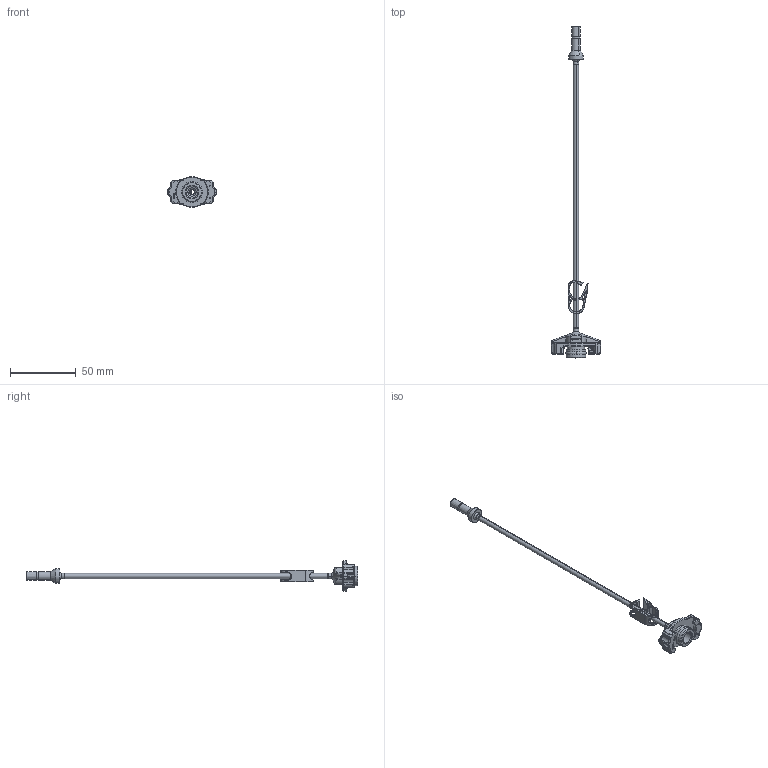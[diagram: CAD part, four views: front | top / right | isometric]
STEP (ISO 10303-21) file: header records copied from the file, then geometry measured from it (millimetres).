
FILE_DESCRIPTION (( 'STEP AP214' ), '1' );
FILE_NAME ('8001020_CUS.STEP', '2022-06-29T15:58:05', ( '' ), ( '' ), 'SwSTEP 2.0', 'SolidWorks 2020', '' );
FILE_SCHEMA (( 'AUTOMOTIVE_DESIGN' ));
Length unit declared in the file: millimetre
Products named in the file (1): 8001020_CUS
Bounding box: 37.4 x 252.2 x 23.4 mm (x, y, z)
Surface area: 8609.1 mm2 (no closed solid volume)
Topology: 0 solids, 20 shells, 491 faces, 1691 edges, 1154 vertices
Faces by surface type: cylinder 209, plane 109, torus 86, bspline 59, cone 15, sphere 13
Entity records: 27683 total; most frequent: CARTESIAN_POINT 8623, DIRECTION 2835, ORIENTED_EDGE 2593, EDGE_CURVE 1677, VERTEX_POINT 1153, AXIS2_PLACEMENT_3D 1050, VECTOR 735, LINE 735
